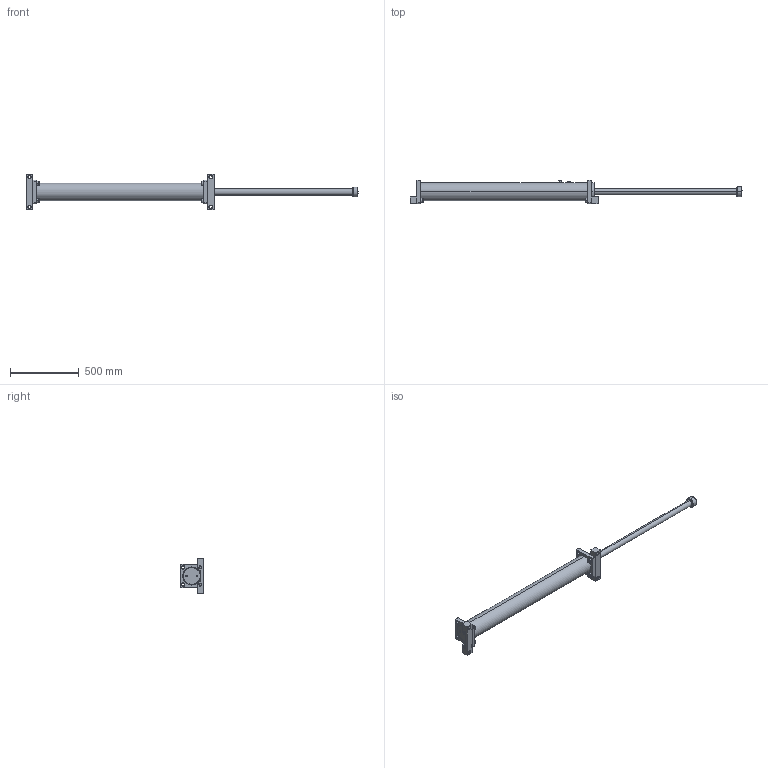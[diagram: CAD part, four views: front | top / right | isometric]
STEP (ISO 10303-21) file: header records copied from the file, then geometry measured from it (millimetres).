
FILE_DESCRIPTION (( 'STEP AP214' ), '1' );
FILE_NAME ('LDD3.0X40.STEP', '2019-01-16T07:45:14', ( 'user' ), ( 'Microsoft' ), 'SwSTEP 2.0', 'SolidWorks 2016', '' );
FILE_SCHEMA (( 'AUTOMOTIVE_DESIGN' ));
Length unit declared in the file: inch
Products named in the file (1): LDD3.0X40
Bounding box: 2406 x 172.5 x 255 mm (x, y, z)
Surface area: 988207.6 mm2 (no closed solid volume)
Topology: 0 solids, 21 shells, 257 faces, 700 edges, 471 vertices
Faces by surface type: plane 101, cylinder 81, cone 45, bspline 30
Entity records: 13823 total; most frequent: CARTESIAN_POINT 7346, DIRECTION 1353, ORIENTED_EDGE 1260, EDGE_CURVE 700, AXIS2_PLACEMENT_3D 507, VERTEX_POINT 471, LINE 339, VECTOR 339
